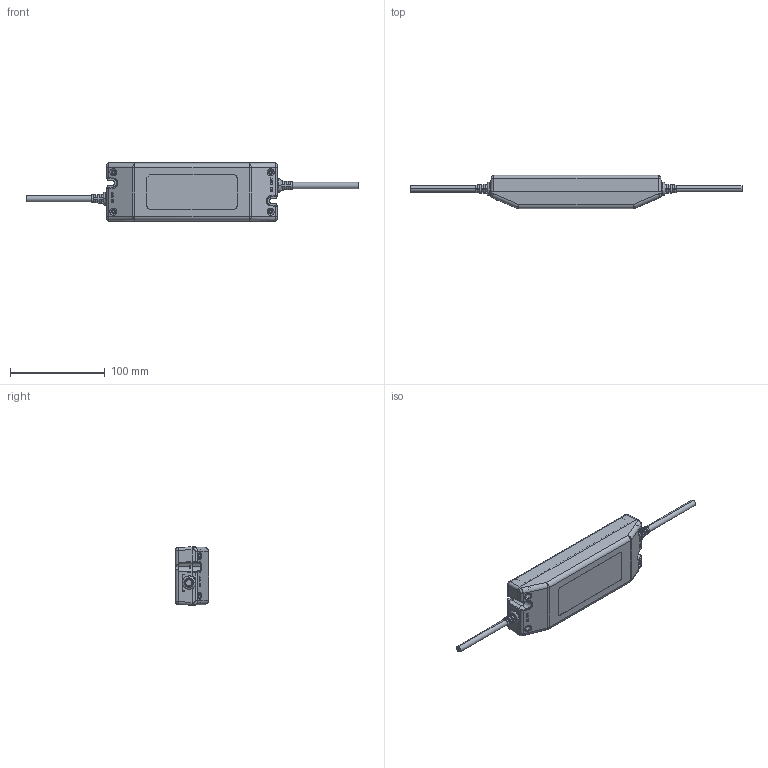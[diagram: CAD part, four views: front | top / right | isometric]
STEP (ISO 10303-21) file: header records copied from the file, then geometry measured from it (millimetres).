
FILE_DESCRIPTION(('OneSpaceDesigner STEP Export'),'2;1');
FILE_NAME('PLN-60.stp','2010-06-11T10:23:59',(''),(''),'OneSpace Designer STEP processor for AP214 (Solid Model)','OneSpace Designer 13.20 11-May-2005 (C) CoCreate Software GmbH','');
FILE_SCHEMA(('AUTOMOTIVE_DESIGN { 1 0 10303 214 1 1 1 1 }'));
Length unit declared in the file: millimetre
Products named in the file (4): CASE; r.2; PCB2; PLN-60
Assembly tree (4 placements, depth 2):
  PLN-60
    PCB2
    r.2  x2
    CASE
Bounding box: 350.42 x 35 x 61.53 mm (x, y, z)
Volume: 108519.8 mm3; surface area: 105600.7 mm2
Topology: 4 solids, 4 shells, 1173 faces, 3222 edges, 2051 vertices
Faces by surface type: plane 846, cylinder 159, cone 106, bspline 44, revolution 12, torus 4, extrusion 2
Entity records: 40439 total; most frequent: CARTESIAN_POINT 11506, ORIENTED_EDGE 5780, DIRECTION 4422, EDGE_CURVE 2878, VECTOR 2082, LINE 2080, VERTEX_POINT 1857, AXIS2_PLACEMENT_3D 1164
